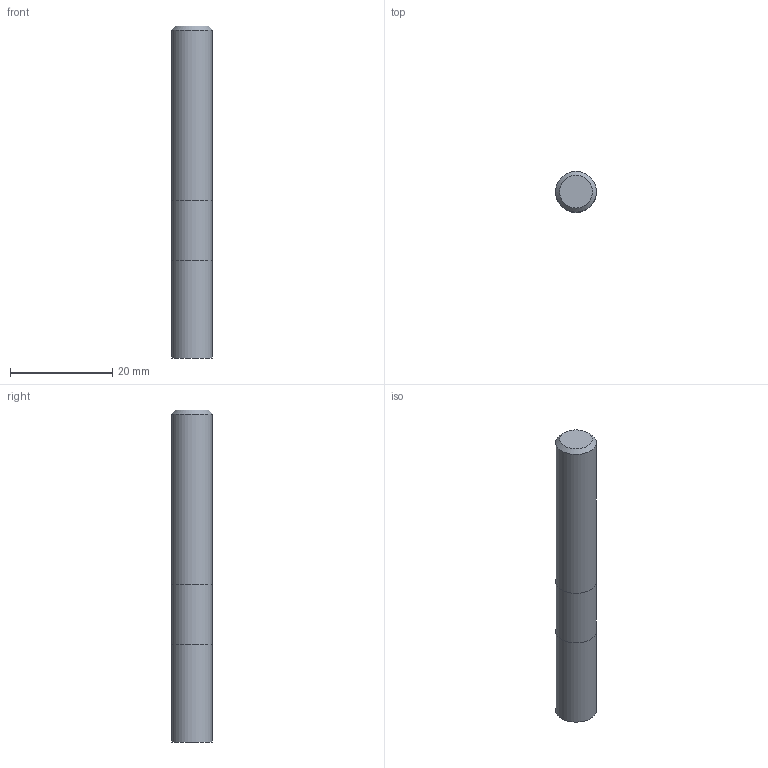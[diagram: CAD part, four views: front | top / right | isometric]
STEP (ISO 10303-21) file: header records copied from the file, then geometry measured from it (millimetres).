
FILE_DESCRIPTION((''),'2;1');
FILE_NAME('C:\Users\nsx150\AppData\Local\Temp\Mastercam 2021\98T1Q6BTT1\TEMP.step','2021-10-21T14:49:33',(''),(''),'STEP Write','Mastercam 2021 ... CNC Software, Inc.','');
FILE_SCHEMA(('AUTOMOTIVE_DESIGN'));
Length unit declared in the file: millimetre
Products named in the file (1): None
Bounding box: 8 x 8 x 65 mm (x, y, z)
Volume: 3259.8 mm3; surface area: 1822.1 mm2
Topology: 2 solids, 2 shells, 8 faces, 10 edges, 6 vertices
Faces by surface type: plane 4, cylinder 3, cone 1
Full cylindrical faces by diameter (mm): 8 x3
Entity records: 190 total; most frequent: DIRECTION 32, CARTESIAN_POINT 22, AXIS2_PLACEMENT_3D 16, ORIENTED_EDGE 12, EDGE_LOOP 12, STYLED_ITEM 11, ADVANCED_FACE 8, FACE_BOUND 7
